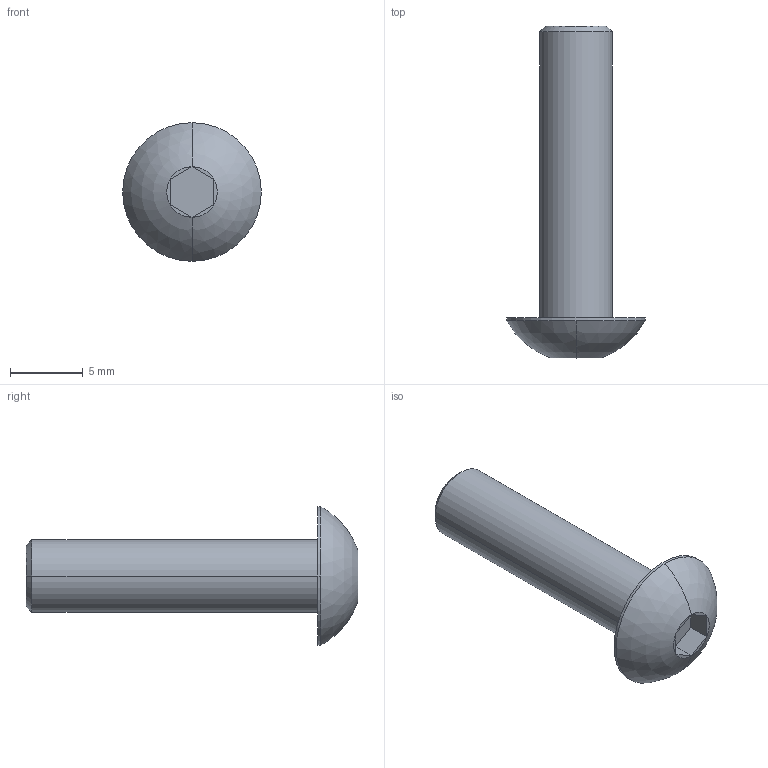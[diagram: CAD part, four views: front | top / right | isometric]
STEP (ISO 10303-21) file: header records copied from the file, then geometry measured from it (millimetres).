
FILE_DESCRIPTION((''),'2;1');
FILE_NAME('VTBEI0520','2002-12-27T',('Lipro doo'),('Lipro d.o.o.'),'PRO/ENGINEER BY PARAMETRIC TECHNOLOGY CORPORATION, 2001150','PRO/ENGINEER BY PARAMETRIC TECHNOLOGY CORPORATION, 2001150','');
FILE_SCHEMA(('CONFIG_CONTROL_DESIGN'));
Length unit declared in the file: millimetre
Products named in the file (1): VTBEI0520
Bounding box: 9.5 x 22.75 x 9.5 mm (x, y, z)
Volume: 504.6 mm3; surface area: 763.1 mm2
Topology: 1 solids, 2 shells, 25 faces, 50 edges, 28 vertices
Faces by surface type: plane 15, cylinder 6, cone 2, sphere 2
Entity records: 684 total; most frequent: DIRECTION 126, CARTESIAN_POINT 104, ORIENTED_EDGE 96, AXIS2_PLACEMENT_3D 50, EDGE_CURVE 50, VERTEX_POINT 28, VECTOR 26, LINE 26
